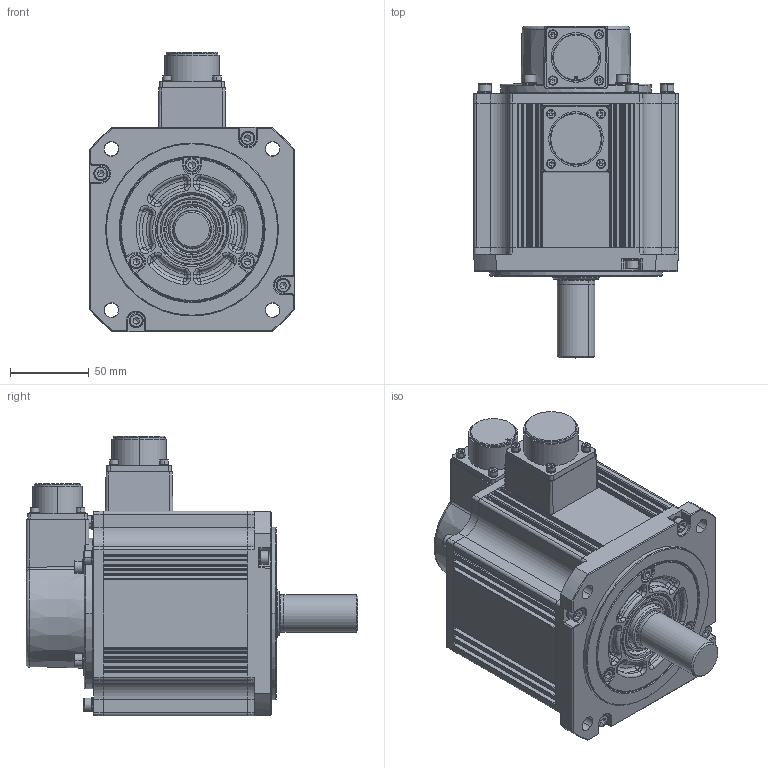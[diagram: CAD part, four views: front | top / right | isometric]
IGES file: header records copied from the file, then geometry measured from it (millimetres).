
Global section: file name: No Iges File Name specified; native system: AutoDesk Inventor R12.0; preprocessor: AutoDesk Inventor Iges Exporter R12.0; author: No Author specified; organization: No Organization specified; date: 20160715.183311; units: millimetre
Bounding box: 130 x 211 x 177.7 mm (x, y, z)
Volume: 2034886.2 mm3; surface area: 146934.2 mm2
Topology: 1 solids, 1 shells, 1167 faces, 2997 edges, 1875 vertices
Faces by surface type: plane 454, cylinder 250, torus 182, revolution 178, bspline 61, cone 34, sphere 8
